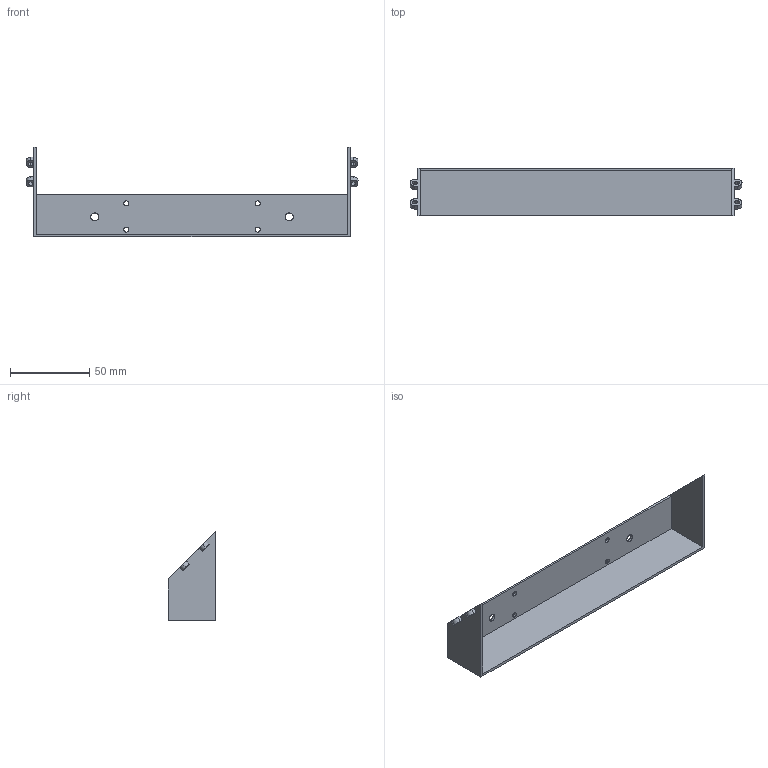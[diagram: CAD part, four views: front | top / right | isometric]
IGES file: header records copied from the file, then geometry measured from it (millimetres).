
Start section: SolidWorks IGES file using analytic representation for surfaces
Global section: file name: C:\Users\fablab-info\Desktop\Miroir cylindro-parabolique\IGS 3D\support moteur.IGS; native system: SolidWorks 2017; preprocessor: SolidWorks 2017; author: fablab-info; date: 190712.155510; units: millimetre
Bounding box: 210 x 30 x 56.5 mm (x, y, z)
Surface area: 27861.6 mm2 (no closed solid volume)
Topology: 0 solids, 0 shells, 52 faces, 1008 edges, 1008 vertices
Faces by surface type: revolution 28, bspline 24
